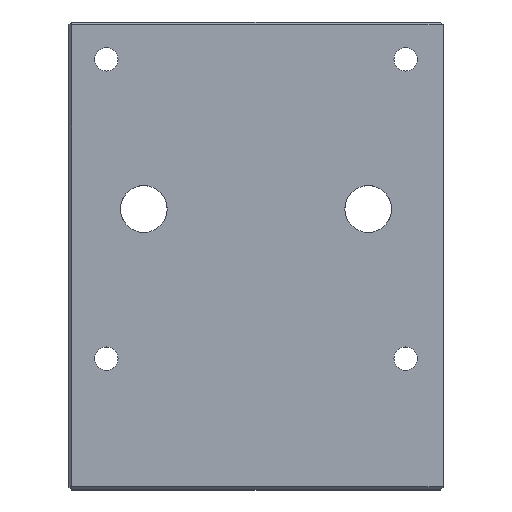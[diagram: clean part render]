
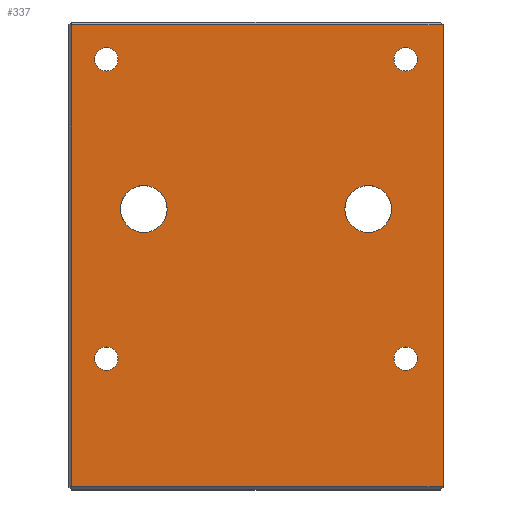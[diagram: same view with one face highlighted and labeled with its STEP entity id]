
A CAD part, top view. The second image highlights one B-rep face of the part: STEP entity #337.
In plain terms, the highlighted planar face has unit normal (0, 0, 1).
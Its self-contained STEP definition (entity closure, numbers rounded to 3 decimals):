
#4 = AXIS2_PLACEMENT_3D ( 'NONE', #1905, #939, #1119 ) ;
#5 = VERTEX_POINT ( 'NONE', #1939 ) ;
#11 = ORIENTED_EDGE ( 'NONE', *, *, #2083, .T. ) ;
#80 = AXIS2_PLACEMENT_3D ( 'NONE', #1063, #1811, #1107 ) ;
#82 = FACE_BOUND ( 'NONE', #1705, .T. ) ;
#104 = EDGE_CURVE ( 'NONE', #695, #2287, #1476, .T. ) ;
#120 = ORIENTED_EDGE ( 'NONE', *, *, #2309, .T. ) ;
#142 = ORIENTED_EDGE ( 'NONE', *, *, #310, .T. ) ;
#154 = AXIS2_PLACEMENT_3D ( 'NONE', #715, #2384, #688 ) ;
#161 = AXIS2_PLACEMENT_3D ( 'NONE', #248, #1725, #418 ) ;
#169 = VERTEX_POINT ( 'NONE', #173 ) ;
#173 = CARTESIAN_POINT ( 'NONE',  ( 16., 44.75, 0. ) ) ;
#248 = CARTESIAN_POINT ( 'NONE',  ( -16., 14., 0. ) ) ;
#256 = CARTESIAN_POINT ( 'NONE',  ( 20., 0., 0. ) ) ;
#259 = EDGE_LOOP ( 'NONE', ( #1050, #1930 ) ) ;
#262 = EDGE_LOOP ( 'NONE', ( #438, #2022 ) ) ;
#277 = DIRECTION ( 'NONE',  ( 1., 0., 0. ) ) ;
#310 = EDGE_CURVE ( 'NONE', #1356, #1347, #1141, .T. ) ;
#315 = CARTESIAN_POINT ( 'NONE',  ( -16., 46., 0. ) ) ;
#319 = CARTESIAN_POINT ( 'NONE',  ( -19.7, 49.7, 0. ) ) ;
#323 = DIRECTION ( 'NONE',  ( 0., 1., 0. ) ) ;
#334 = DIRECTION ( 'NONE',  ( 0., 0., -1. ) ) ;
#337 = ADVANCED_FACE ( 'NONE', ( #1000, #82, #812, #1189, #1023, #612, #2332 ), #1558, .F. ) ;
#351 = VERTEX_POINT ( 'NONE', #835 ) ;
#356 = EDGE_CURVE ( 'NONE', #1347, #1380, #1392, .T. ) ;
#369 = EDGE_CURVE ( 'NONE', #5, #1380, #1936, .T. ) ;
#390 = AXIS2_PLACEMENT_3D ( 'NONE', #2312, #636, #811 ) ;
#392 = DIRECTION ( 'NONE',  ( 0., 0., -1. ) ) ;
#418 = DIRECTION ( 'NONE',  ( 0., 1., 0. ) ) ;
#438 = ORIENTED_EDGE ( 'NONE', *, *, #1266, .T. ) ;
#443 = DIRECTION ( 'NONE',  ( 0., 0., -1. ) ) ;
#473 = VERTEX_POINT ( 'NONE', #1058 ) ;
#521 = VERTEX_POINT ( 'NONE', #2173 ) ;
#526 = CARTESIAN_POINT ( 'NONE',  ( -19.7, 0.3, 0. ) ) ;
#578 = VERTEX_POINT ( 'NONE', #888 ) ;
#596 = CARTESIAN_POINT ( 'NONE',  ( -16., 15.25, 0. ) ) ;
#612 = FACE_BOUND ( 'NONE', #1481, .T. ) ;
#623 = EDGE_CURVE ( 'NONE', #521, #2036, #1594, .T. ) ;
#626 = CIRCLE ( 'NONE', #862, 1.25 ) ;
#636 = DIRECTION ( 'NONE',  ( 0., 0., -1. ) ) ;
#639 = EDGE_LOOP ( 'NONE', ( #142, #2389, #2011, #828 ) ) ;
#640 = DIRECTION ( 'NONE',  ( 0., 0., -1. ) ) ;
#644 = DIRECTION ( 'NONE',  ( 1., 0., 0. ) ) ;
#656 = CIRCLE ( 'NONE', #1518, 1.25 ) ;
#668 = EDGE_CURVE ( 'NONE', #351, #1880, #2030, .T. ) ;
#671 = CARTESIAN_POINT ( 'NONE',  ( 16., 14., 0. ) ) ;
#679 = CARTESIAN_POINT ( 'NONE',  ( 16., 47.25, 0. ) ) ;
#686 = LINE ( 'NONE', #2026, #1603 ) ;
#688 = DIRECTION ( 'NONE',  ( 1., 0., 0. ) ) ;
#695 = VERTEX_POINT ( 'NONE', #2100 ) ;
#715 = CARTESIAN_POINT ( 'NONE',  ( -12., 30., 0. ) ) ;
#771 = AXIS2_PLACEMENT_3D ( 'NONE', #256, #1213, #1592 ) ;
#787 = CARTESIAN_POINT ( 'NONE',  ( -16., 46., 0. ) ) ;
#811 = DIRECTION ( 'NONE',  ( 0., 1., 0. ) ) ;
#812 = FACE_BOUND ( 'NONE', #262, .T. ) ;
#828 = ORIENTED_EDGE ( 'NONE', *, *, #2097, .T. ) ;
#833 = VERTEX_POINT ( 'NONE', #1258 ) ;
#835 = CARTESIAN_POINT ( 'NONE',  ( 16., 15.25, 0. ) ) ;
#840 = EDGE_LOOP ( 'NONE', ( #2322, #1192 ) ) ;
#862 = AXIS2_PLACEMENT_3D ( 'NONE', #315, #334, #2201 ) ;
#888 = CARTESIAN_POINT ( 'NONE',  ( 9.5, 30., 0. ) ) ;
#931 = VECTOR ( 'NONE', #1362, 1000. ) ;
#934 = CARTESIAN_POINT ( 'NONE',  ( -19.7, 0., 0. ) ) ;
#938 = CIRCLE ( 'NONE', #1249, 1.25 ) ;
#939 = DIRECTION ( 'NONE',  ( 0., 0., 1. ) ) ;
#942 = AXIS2_PLACEMENT_3D ( 'NONE', #999, #1007, #644 ) ;
#953 = EDGE_CURVE ( 'NONE', #833, #578, #1363, .T. ) ;
#989 = CARTESIAN_POINT ( 'NONE',  ( 20., 0.3, 0. ) ) ;
#999 = CARTESIAN_POINT ( 'NONE',  ( 12., 30., 0. ) ) ;
#1000 = FACE_BOUND ( 'NONE', #840, .T. ) ;
#1001 = CARTESIAN_POINT ( 'NONE',  ( 16., 46., 0. ) ) ;
#1007 = DIRECTION ( 'NONE',  ( 0., 0., 1. ) ) ;
#1019 = CIRCLE ( 'NONE', #80, 1.25 ) ;
#1023 = FACE_BOUND ( 'NONE', #2144, .T. ) ;
#1032 = ORIENTED_EDGE ( 'NONE', *, *, #623, .T. ) ;
#1048 = DIRECTION ( 'NONE',  ( 0., 1., 0. ) ) ;
#1050 = ORIENTED_EDGE ( 'NONE', *, *, #668, .T. ) ;
#1058 = CARTESIAN_POINT ( 'NONE',  ( -16., 12.75, 0. ) ) ;
#1063 = CARTESIAN_POINT ( 'NONE',  ( 16., 46., 0. ) ) ;
#1101 = VERTEX_POINT ( 'NONE', #596 ) ;
#1107 = DIRECTION ( 'NONE',  ( 0., 1., 0. ) ) ;
#1118 = CARTESIAN_POINT ( 'NONE',  ( 20., 0.3, 0. ) ) ;
#1119 = DIRECTION ( 'NONE',  ( 1., 0., 0. ) ) ;
#1141 = LINE ( 'NONE', #934, #1987 ) ;
#1150 = DIRECTION ( 'NONE',  ( 0., 1., 0. ) ) ;
#1160 = EDGE_CURVE ( 'NONE', #1880, #351, #656, .T. ) ;
#1168 = AXIS2_PLACEMENT_3D ( 'NONE', #1305, #1642, #1455 ) ;
#1189 = FACE_BOUND ( 'NONE', #259, .T. ) ;
#1192 = ORIENTED_EDGE ( 'NONE', *, *, #104, .F. ) ;
#1202 = DIRECTION ( 'NONE',  ( 0., 1., 0. ) ) ;
#1204 = CARTESIAN_POINT ( 'NONE',  ( 16., 14., 0. ) ) ;
#1213 = DIRECTION ( 'NONE',  ( 0., 0., -1. ) ) ;
#1249 = AXIS2_PLACEMENT_3D ( 'NONE', #1001, #443, #1202 ) ;
#1258 = CARTESIAN_POINT ( 'NONE',  ( 14.5, 30., 0. ) ) ;
#1266 = EDGE_CURVE ( 'NONE', #1718, #169, #1019, .T. ) ;
#1293 = ORIENTED_EDGE ( 'NONE', *, *, #1444, .T. ) ;
#1305 = CARTESIAN_POINT ( 'NONE',  ( 12., 30., 0. ) ) ;
#1347 = VERTEX_POINT ( 'NONE', #526 ) ;
#1356 = VERTEX_POINT ( 'NONE', #319 ) ;
#1362 = DIRECTION ( 'NONE',  ( 0., -1., 0. ) ) ;
#1363 = CIRCLE ( 'NONE', #1168, 2.5 ) ;
#1380 = VERTEX_POINT ( 'NONE', #1118 ) ;
#1383 = CARTESIAN_POINT ( 'NONE',  ( -9.5, 30., 0. ) ) ;
#1392 = LINE ( 'NONE', #989, #2223 ) ;
#1444 = EDGE_CURVE ( 'NONE', #473, #1101, #1995, .T. ) ;
#1448 = CIRCLE ( 'NONE', #390, 1.25 ) ;
#1455 = DIRECTION ( 'NONE',  ( 1., 0., 0. ) ) ;
#1476 = CIRCLE ( 'NONE', #154, 2.5 ) ;
#1481 = EDGE_LOOP ( 'NONE', ( #11, #1032 ) ) ;
#1518 = AXIS2_PLACEMENT_3D ( 'NONE', #1204, #640, #1048 ) ;
#1558 = PLANE ( 'NONE',  #771 ) ;
#1560 = CARTESIAN_POINT ( 'NONE',  ( -16., 47.25, 0. ) ) ;
#1592 = DIRECTION ( 'NONE',  ( -1., 0., 0. ) ) ;
#1594 = CIRCLE ( 'NONE', #2310, 1.25 ) ;
#1603 = VECTOR ( 'NONE', #1808, 1000. ) ;
#1642 = DIRECTION ( 'NONE',  ( 0., 0., 1. ) ) ;
#1685 = DIRECTION ( 'NONE',  ( 0., -1., 0. ) ) ;
#1689 = CARTESIAN_POINT ( 'NONE',  ( 16., 12.75, 0. ) ) ;
#1705 = EDGE_LOOP ( 'NONE', ( #1817, #2378 ) ) ;
#1718 = VERTEX_POINT ( 'NONE', #679 ) ;
#1725 = DIRECTION ( 'NONE',  ( 0., 0., -1. ) ) ;
#1808 = DIRECTION ( 'NONE',  ( -1., 0., 0. ) ) ;
#1811 = DIRECTION ( 'NONE',  ( 0., 0., -1. ) ) ;
#1817 = ORIENTED_EDGE ( 'NONE', *, *, #953, .F. ) ;
#1849 = EDGE_CURVE ( 'NONE', #2287, #695, #2196, .T. ) ;
#1870 = AXIS2_PLACEMENT_3D ( 'NONE', #671, #1958, #323 ) ;
#1880 = VERTEX_POINT ( 'NONE', #1689 ) ;
#1898 = EDGE_CURVE ( 'NONE', #169, #1718, #938, .T. ) ;
#1905 = CARTESIAN_POINT ( 'NONE',  ( -12., 30., 0. ) ) ;
#1930 = ORIENTED_EDGE ( 'NONE', *, *, #1160, .T. ) ;
#1936 = LINE ( 'NONE', #2301, #931 ) ;
#1939 = CARTESIAN_POINT ( 'NONE',  ( 20., 49.7, 0. ) ) ;
#1958 = DIRECTION ( 'NONE',  ( 0., 0., -1. ) ) ;
#1987 = VECTOR ( 'NONE', #1685, 1000. ) ;
#1995 = CIRCLE ( 'NONE', #161, 1.25 ) ;
#2011 = ORIENTED_EDGE ( 'NONE', *, *, #369, .F. ) ;
#2022 = ORIENTED_EDGE ( 'NONE', *, *, #1898, .T. ) ;
#2026 = CARTESIAN_POINT ( 'NONE',  ( 20., 49.7, 0. ) ) ;
#2030 = CIRCLE ( 'NONE', #1870, 1.25 ) ;
#2036 = VERTEX_POINT ( 'NONE', #1560 ) ;
#2083 = EDGE_CURVE ( 'NONE', #2036, #521, #626, .T. ) ;
#2097 = EDGE_CURVE ( 'NONE', #5, #1356, #686, .T. ) ;
#2100 = CARTESIAN_POINT ( 'NONE',  ( -14.5, 30., 0. ) ) ;
#2117 = CIRCLE ( 'NONE', #942, 2.5 ) ;
#2144 = EDGE_LOOP ( 'NONE', ( #120, #1293 ) ) ;
#2173 = CARTESIAN_POINT ( 'NONE',  ( -16., 44.75, 0. ) ) ;
#2196 = CIRCLE ( 'NONE', #4, 2.5 ) ;
#2201 = DIRECTION ( 'NONE',  ( 0., 1., 0. ) ) ;
#2223 = VECTOR ( 'NONE', #277, 1000. ) ;
#2262 = EDGE_CURVE ( 'NONE', #578, #833, #2117, .T. ) ;
#2287 = VERTEX_POINT ( 'NONE', #1383 ) ;
#2301 = CARTESIAN_POINT ( 'NONE',  ( 20., 0., 0. ) ) ;
#2309 = EDGE_CURVE ( 'NONE', #1101, #473, #1448, .T. ) ;
#2310 = AXIS2_PLACEMENT_3D ( 'NONE', #787, #392, #1150 ) ;
#2312 = CARTESIAN_POINT ( 'NONE',  ( -16., 14., 0. ) ) ;
#2322 = ORIENTED_EDGE ( 'NONE', *, *, #1849, .F. ) ;
#2332 = FACE_OUTER_BOUND ( 'NONE', #639, .T. ) ;
#2378 = ORIENTED_EDGE ( 'NONE', *, *, #2262, .F. ) ;
#2384 = DIRECTION ( 'NONE',  ( 0., 0., 1. ) ) ;
#2389 = ORIENTED_EDGE ( 'NONE', *, *, #356, .T. ) ;
